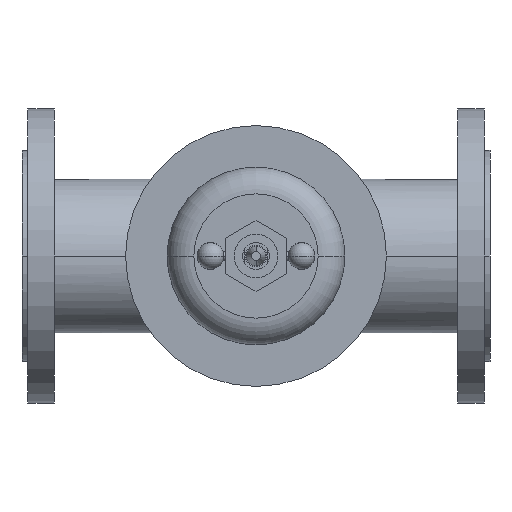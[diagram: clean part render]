
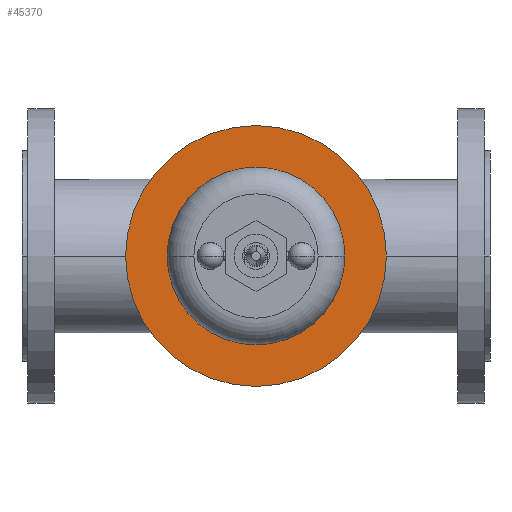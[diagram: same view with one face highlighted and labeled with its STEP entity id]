
A CAD part, front view. The second image highlights one B-rep face of the part: STEP entity #45370.
In plain terms, the highlighted planar face has unit normal (0, -1, 0).
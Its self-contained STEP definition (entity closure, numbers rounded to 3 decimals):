
#10150=CARTESIAN_POINT('',(108.5,-142.5,0.));
#10160=VERTEX_POINT('',#10150);
#10190=CARTESIAN_POINT('',(175.,-142.5,0.));
#10200=DIRECTION('',(0.,-1.,0.));
#10210=DIRECTION('',(-1.,0.,0.));
#10220=AXIS2_PLACEMENT_3D('',#10190,#10200,#10210);
#10230=CIRCLE('',#10220,66.5);
#10240=CARTESIAN_POINT('',(241.5,-142.5,0.));
#10250=VERTEX_POINT('',#10240);
#10260=EDGE_CURVE('',#10250,#10160,#10230,.T.);
#26430=CARTESIAN_POINT('',(77.5,-142.5,0.));
#26440=VERTEX_POINT('',#26430);
#26600=CARTESIAN_POINT('',(272.5,-142.5,0.));
#26610=VERTEX_POINT('',#26600);
#26640=CARTESIAN_POINT('',(175.,-142.5,0.));
#26650=DIRECTION('',(0.,-1.,0.));
#26660=DIRECTION('',(1.,0.,0.));
#26670=AXIS2_PLACEMENT_3D('',#26640,#26650,#26660);
#26680=CIRCLE('',#26670,97.5);
#26690=EDGE_CURVE('',#26610,#26440,#26680,.T.);
#45220=CARTESIAN_POINT('',(92.5,-142.5,0.));
#45230=DIRECTION('',(0.,-1.,0.));
#45240=DIRECTION('',(-1.,0.,0.));
#45250=AXIS2_PLACEMENT_3D('',#45220,#45230,#45240);
#45260=PLANE('',#45250);
#45270=EDGE_CURVE('',#26440,#26610,#26680,.T.);
#45280=ORIENTED_EDGE('',*,*,#45270,.T.);
#45290=ORIENTED_EDGE('',*,*,#26690,.T.);
#45300=EDGE_LOOP('',(#45290,#45280));
#45310=FACE_OUTER_BOUND('',#45300,.T.);
#45320=EDGE_CURVE('',#10160,#10250,#10230,.T.);
#45330=ORIENTED_EDGE('',*,*,#45320,.F.);
#45340=ORIENTED_EDGE('',*,*,#10260,.F.);
#45350=EDGE_LOOP('',(#45340,#45330));
#45360=FACE_BOUND('',#45350,.T.);
#45370=ADVANCED_FACE('',(#45310,#45360),#45260,.T.);
